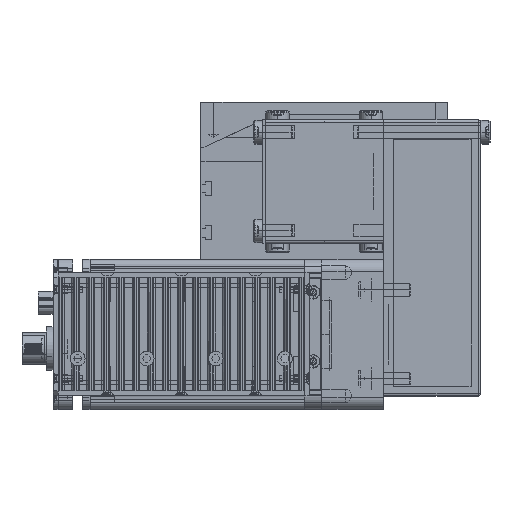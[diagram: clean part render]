
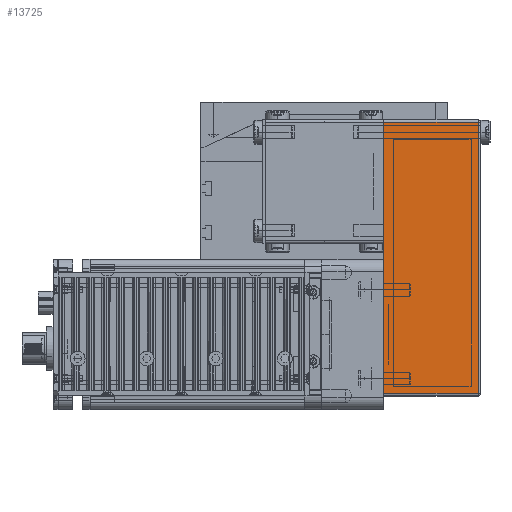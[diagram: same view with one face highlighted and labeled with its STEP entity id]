
A CAD part, top view. The second image highlights one B-rep face of the part: STEP entity #13725.
In plain terms, the highlighted planar face has unit normal (0, 0, 1) as drawn and (0, -1, 0) by its records, which use the part's own axes.
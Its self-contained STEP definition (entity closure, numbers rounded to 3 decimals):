
#13492 = EDGE_CURVE ( 'NONE', #13544, #13518, #33658, .T. ) ;
#13517 = VERTEX_POINT ( 'NONE', #33694 ) ;
#13518 = VERTEX_POINT ( 'NONE', #33636 ) ;
#13544 = VERTEX_POINT ( 'NONE', #33667 ) ;
#13590 = EDGE_CURVE ( 'NONE', #13517, #13614, #33751, .T. ) ;
#13614 = VERTEX_POINT ( 'NONE', #33784 ) ;
#13621 = EDGE_LOOP ( 'NONE', ( #13749, #13723, #13722, #13731 ) ) ;
#13721 = EDGE_CURVE ( 'NONE', #13518, #13517, #33936, .T. ) ;
#13722 = ORIENTED_EDGE ( 'NONE', *, *, #13590, .F. ) ;
#13723 = ORIENTED_EDGE ( 'NONE', *, *, #13743, .T. ) ;
#13725 = ADVANCED_FACE ( 'NONE', ( #33866 ), #33870, .F. ) ;
#13731 = ORIENTED_EDGE ( 'NONE', *, *, #13721, .F. ) ;
#13743 = EDGE_CURVE ( 'NONE', #13544, #13614, #33915, .T. ) ;
#13749 = ORIENTED_EDGE ( 'NONE', *, *, #13492, .F. ) ;
#33636 = CARTESIAN_POINT ( 'NONE',  ( -49., -25., 38.5 ) ) ;
#33651 = DIRECTION ( 'NONE',  ( 0., 0., 1. ) ) ;
#33652 = VECTOR ( 'NONE', #33651, 1000. ) ;
#33657 = CARTESIAN_POINT ( 'NONE',  ( -49., -25., 39.5 ) ) ;
#33658 = LINE ( 'NONE', #33657, #33652 ) ;
#33667 = CARTESIAN_POINT ( 'NONE',  ( -49., -25., 0. ) ) ;
#33694 = CARTESIAN_POINT ( 'NONE',  ( 61., -25., 38.5 ) ) ;
#33748 = DIRECTION ( 'NONE',  ( 0., 0., -1. ) ) ;
#33749 = VECTOR ( 'NONE', #33748, 1000. ) ;
#33750 = CARTESIAN_POINT ( 'NONE',  ( 61., -25., 39.5 ) ) ;
#33751 = LINE ( 'NONE', #33750, #33749 ) ;
#33784 = CARTESIAN_POINT ( 'NONE',  ( 61., -25., 0. ) ) ;
#33866 = FACE_OUTER_BOUND ( 'NONE', #13621, .T. ) ;
#33870 = PLANE ( 'NONE',  #33932 ) ;
#33873 = VECTOR ( 'NONE', #33933, 1000. ) ;
#33875 = CARTESIAN_POINT ( 'NONE',  ( -50., -25., 39.5 ) ) ;
#33909 = DIRECTION ( 'NONE',  ( 0., 1., 0. ) ) ;
#33915 = LINE ( 'NONE', #33954, #33953 ) ;
#33930 = DIRECTION ( 'NONE',  ( 0., 0., 1. ) ) ;
#33932 = AXIS2_PLACEMENT_3D ( 'NONE', #33875, #33909, #33930 ) ;
#33933 = DIRECTION ( 'NONE',  ( 1., 0., 0. ) ) ;
#33935 = CARTESIAN_POINT ( 'NONE',  ( -50., -25., 38.5 ) ) ;
#33936 = LINE ( 'NONE', #33935, #33873 ) ;
#33952 = DIRECTION ( 'NONE',  ( 1., 0., 0. ) ) ;
#33953 = VECTOR ( 'NONE', #33952, 1000. ) ;
#33954 = CARTESIAN_POINT ( 'NONE',  ( -50., -25., 0. ) ) ;
